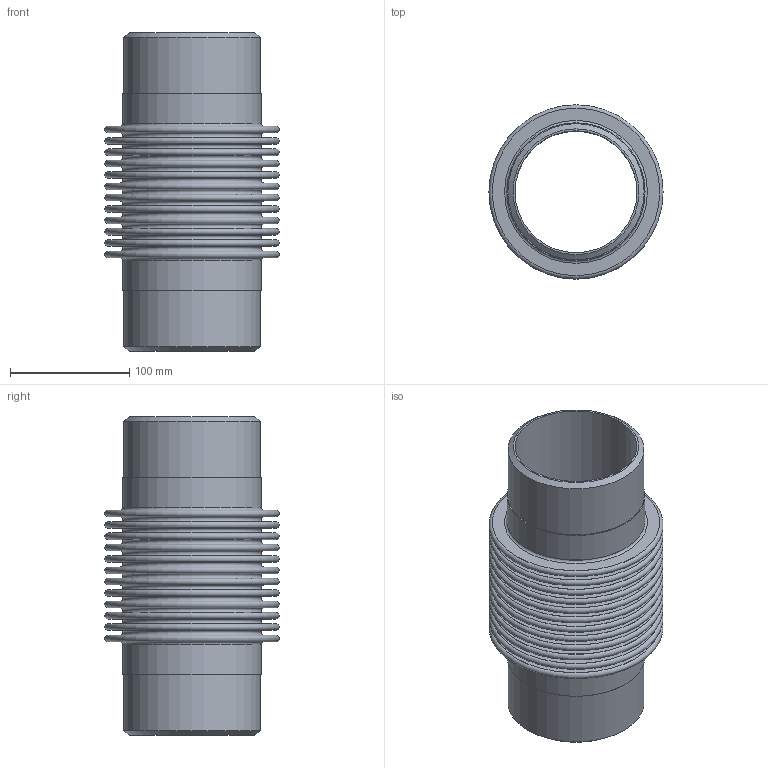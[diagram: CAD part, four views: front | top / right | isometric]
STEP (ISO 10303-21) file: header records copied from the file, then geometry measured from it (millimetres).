
FILE_DESCRIPTION(/* description */ ('EXPANSION JOINT,SINGLE, WELD ENDS,4 INCH NOMINAL'),/* implementation_level */ '2;1');
FILE_NAME(/* name */ 'ASSEMBLY US-4-12-150L.stp',/* time_stamp */ '2026-07-28T15:47:10-05:00',/* author */ ('jorgef'),/* organization */ (''),/* preprocessor_version */ 'ST-DEVELOPER v20.1',/* originating_system */ 'Autodesk Inventor 2026',/* authorisation */ '');
FILE_SCHEMA (('AUTOMOTIVE_DESIGN { 1 0 10303 214 3 1 1 }'));
Length unit declared in the file: inch
Products named in the file (3): ASSEMBLY  US-4-12-150L; STOCK BELLOW - US-4-12-150L; PIPE- US-4-12-150L
Assembly tree (3 placements, depth 2):
  ASSEMBLY  US-4-12-150L
    STOCK BELLOW - US-4-12-150L
    PIPE- US-4-12-150L  x2
Bounding box: 146.05 x 146.05 x 266.7 mm (x, y, z)
Volume: 454160.9 mm3; surface area: 498638.3 mm2
Topology: 5 solids, 5 shells, 118 faces, 180 edges, 121 vertices
Faces by surface type: plane 58, torus 50, cylinder 8, cone 2
Full cylindrical faces by diameter (mm): 102.26 x2, 114.3 x4, 115.824 x2
Entity records: 2769 total; most frequent: DIRECTION 573, CARTESIAN_POINT 405, ORIENTED_EDGE 342, AXIS2_PLACEMENT_3D 283, EDGE_CURVE 171, EDGE_LOOP 169, CIRCLE 164, VERTEX_POINT 114
